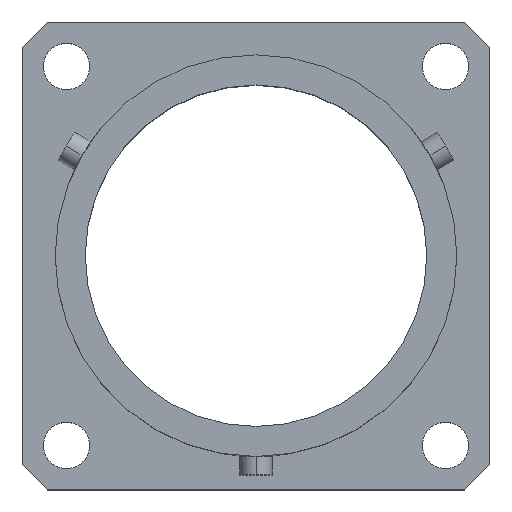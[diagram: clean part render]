
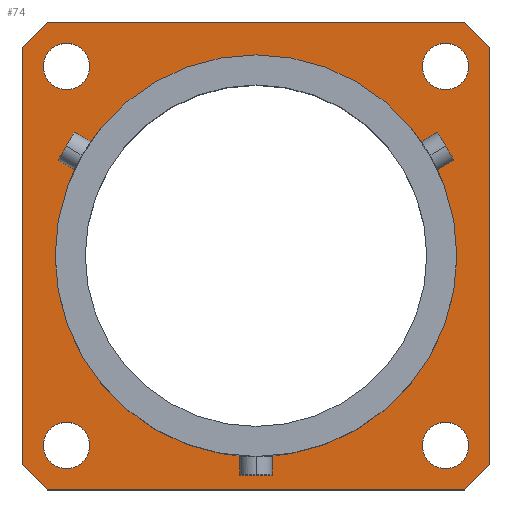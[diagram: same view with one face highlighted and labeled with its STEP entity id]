
A CAD part, top view. The second image highlights one B-rep face of the part: STEP entity #74.
In plain terms, the highlighted planar face has unit normal (0, 0, 1).
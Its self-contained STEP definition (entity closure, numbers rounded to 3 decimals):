
#74=ADVANCED_FACE('',(#144,#145,#146,#147,#148,#109),#377,.T.);
#109=FACE_OUTER_BOUND('',#163,.F.);
#144=FACE_BOUND('',#158,.F.);
#145=FACE_BOUND('',#159,.F.);
#146=FACE_BOUND('',#160,.F.);
#147=FACE_BOUND('',#161,.F.);
#148=FACE_BOUND('',#162,.F.);
#158=EDGE_LOOP('',(#207,#208));
#159=EDGE_LOOP('',(#209,#210));
#160=EDGE_LOOP('',(#211,#212));
#161=EDGE_LOOP('',(#213,#214));
#162=EDGE_LOOP('',(#215,#216));
#163=EDGE_LOOP('',(#217,#218,#219,#220,#221,#222,#223,#224));
#207=ORIENTED_EDGE('',*,*,#528,.T.);
#208=ORIENTED_EDGE('',*,*,#526,.T.);
#209=ORIENTED_EDGE('',*,*,#536,.T.);
#210=ORIENTED_EDGE('',*,*,#534,.T.);
#211=ORIENTED_EDGE('',*,*,#540,.T.);
#212=ORIENTED_EDGE('',*,*,#538,.T.);
#213=ORIENTED_EDGE('',*,*,#532,.T.);
#214=ORIENTED_EDGE('',*,*,#530,.T.);
#215=ORIENTED_EDGE('',*,*,#525,.T.);
#216=ORIENTED_EDGE('',*,*,#524,.T.);
#217=ORIENTED_EDGE('',*,*,#558,.T.);
#218=ORIENTED_EDGE('',*,*,#543,.T.);
#219=ORIENTED_EDGE('',*,*,#561,.T.);
#220=ORIENTED_EDGE('',*,*,#555,.T.);
#221=ORIENTED_EDGE('',*,*,#560,.T.);
#222=ORIENTED_EDGE('',*,*,#551,.T.);
#223=ORIENTED_EDGE('',*,*,#559,.T.);
#224=ORIENTED_EDGE('',*,*,#547,.T.);
#377=PLANE('',#699);
#393=LINE('',#1084,#438);
#397=LINE('',#1088,#442);
#401=LINE('',#1092,#446);
#405=LINE('',#1096,#450);
#408=LINE('',#1099,#453);
#409=LINE('',#1100,#454);
#410=LINE('',#1101,#455);
#411=LINE('',#1102,#456);
#438=VECTOR('',#778,2.546);
#442=VECTOR('',#782,2.546);
#446=VECTOR('',#786,2.546);
#450=VECTOR('',#790,2.546);
#453=VECTOR('',#793,29.7);
#454=VECTOR('',#794,29.7);
#455=VECTOR('',#795,29.7);
#456=VECTOR('',#796,29.7);
#484=CIRCLE('',#667,14.29);
#485=CIRCLE('',#668,14.29);
#486=CIRCLE('',#669,1.65);
#488=CIRCLE('',#671,1.65);
#490=CIRCLE('',#673,1.65);
#492=CIRCLE('',#675,1.65);
#494=CIRCLE('',#677,1.65);
#496=CIRCLE('',#679,1.65);
#498=CIRCLE('',#681,1.65);
#500=CIRCLE('',#683,1.65);
#524=EDGE_CURVE('',#654,#653,#484,.T.);
#525=EDGE_CURVE('',#653,#654,#485,.T.);
#526=EDGE_CURVE('',#652,#651,#486,.T.);
#528=EDGE_CURVE('',#651,#652,#488,.T.);
#530=EDGE_CURVE('',#648,#647,#490,.T.);
#532=EDGE_CURVE('',#647,#648,#492,.T.);
#534=EDGE_CURVE('',#644,#643,#494,.T.);
#536=EDGE_CURVE('',#643,#644,#496,.T.);
#538=EDGE_CURVE('',#640,#639,#498,.T.);
#540=EDGE_CURVE('',#639,#640,#500,.T.);
#543=EDGE_CURVE('',#634,#633,#393,.T.);
#547=EDGE_CURVE('',#630,#629,#397,.T.);
#551=EDGE_CURVE('',#626,#625,#401,.T.);
#555=EDGE_CURVE('',#622,#621,#405,.T.);
#558=EDGE_CURVE('',#629,#634,#408,.T.);
#559=EDGE_CURVE('',#625,#630,#409,.T.);
#560=EDGE_CURVE('',#621,#626,#410,.T.);
#561=EDGE_CURVE('',#633,#622,#411,.T.);
#621=VERTEX_POINT('',#937);
#622=VERTEX_POINT('',#938);
#625=VERTEX_POINT('',#941);
#626=VERTEX_POINT('',#942);
#629=VERTEX_POINT('',#945);
#630=VERTEX_POINT('',#946);
#633=VERTEX_POINT('',#949);
#634=VERTEX_POINT('',#950);
#639=VERTEX_POINT('',#955);
#640=VERTEX_POINT('',#956);
#643=VERTEX_POINT('',#959);
#644=VERTEX_POINT('',#960);
#647=VERTEX_POINT('',#963);
#648=VERTEX_POINT('',#964);
#651=VERTEX_POINT('',#967);
#652=VERTEX_POINT('',#968);
#653=VERTEX_POINT('',#969);
#654=VERTEX_POINT('',#970);
#667=AXIS2_PLACEMENT_3D('',#1065,#741,#742);
#668=AXIS2_PLACEMENT_3D('',#1066,#743,#744);
#669=AXIS2_PLACEMENT_3D('',#1067,#745,#746);
#671=AXIS2_PLACEMENT_3D('',#1069,#749,#750);
#673=AXIS2_PLACEMENT_3D('',#1071,#753,#754);
#675=AXIS2_PLACEMENT_3D('',#1073,#757,#758);
#677=AXIS2_PLACEMENT_3D('',#1075,#761,#762);
#679=AXIS2_PLACEMENT_3D('',#1077,#765,#766);
#681=AXIS2_PLACEMENT_3D('',#1079,#769,#770);
#683=AXIS2_PLACEMENT_3D('',#1081,#773,#774);
#699=AXIS2_PLACEMENT_3D('',#1142,#850,#851);
#741=DIRECTION('',(0.,0.,1.));
#742=DIRECTION('',(0.,1.,0.));
#743=DIRECTION('',(0.,0.,1.));
#744=DIRECTION('',(0.,-1.,0.));
#745=DIRECTION('',(0.,0.,1.));
#746=DIRECTION('',(0.,1.,0.));
#749=DIRECTION('',(0.,0.,1.));
#750=DIRECTION('',(0.,-1.,0.));
#753=DIRECTION('',(0.,0.,1.));
#754=DIRECTION('',(0.,1.,0.));
#757=DIRECTION('',(0.,0.,1.));
#758=DIRECTION('',(0.,-1.,0.));
#761=DIRECTION('',(0.,0.,1.));
#762=DIRECTION('',(0.,1.,0.));
#765=DIRECTION('',(0.,0.,1.));
#766=DIRECTION('',(0.,-1.,0.));
#769=DIRECTION('',(0.,0.,1.));
#770=DIRECTION('',(0.,1.,0.));
#773=DIRECTION('',(0.,0.,1.));
#774=DIRECTION('',(0.,-1.,0.));
#778=DIRECTION('',(0.707,0.707,0.));
#782=DIRECTION('',(-0.707,0.707,0.));
#786=DIRECTION('',(-0.707,-0.707,0.));
#790=DIRECTION('',(0.707,-0.707,0.));
#793=DIRECTION('',(0.,1.,0.));
#794=DIRECTION('',(-1.,0.,0.));
#795=DIRECTION('',(0.,-1.,0.));
#796=DIRECTION('',(1.,0.,0.));
#850=DIRECTION('',(0.,0.,1.));
#851=DIRECTION('',(1.,0.,0.));
#937=CARTESIAN_POINT('',(16.65,14.85,1.6));
#938=CARTESIAN_POINT('',(14.85,16.65,1.6));
#941=CARTESIAN_POINT('',(14.85,-16.65,1.6));
#942=CARTESIAN_POINT('',(16.65,-14.85,1.6));
#945=CARTESIAN_POINT('',(-16.65,-14.85,1.6));
#946=CARTESIAN_POINT('',(-14.85,-16.65,1.6));
#949=CARTESIAN_POINT('',(-14.85,16.65,1.6));
#950=CARTESIAN_POINT('',(-16.65,14.85,1.6));
#955=CARTESIAN_POINT('',(13.485,-15.135,1.6));
#956=CARTESIAN_POINT('',(13.485,-11.835,1.6));
#959=CARTESIAN_POINT('',(-13.485,-15.135,1.6));
#960=CARTESIAN_POINT('',(-13.485,-11.835,1.6));
#963=CARTESIAN_POINT('',(-13.485,11.835,1.6));
#964=CARTESIAN_POINT('',(-13.485,15.135,1.6));
#967=CARTESIAN_POINT('',(13.485,11.835,1.6));
#968=CARTESIAN_POINT('',(13.485,15.135,1.6));
#969=CARTESIAN_POINT('',(0.,-14.29,1.6));
#970=CARTESIAN_POINT('',(0.,14.29,1.6));
#1065=CARTESIAN_POINT('',(0.,0.,1.6));
#1066=CARTESIAN_POINT('',(0.,0.,1.6));
#1067=CARTESIAN_POINT('',(13.485,13.485,1.6));
#1069=CARTESIAN_POINT('',(13.485,13.485,1.6));
#1071=CARTESIAN_POINT('',(-13.485,13.485,1.6));
#1073=CARTESIAN_POINT('',(-13.485,13.485,1.6));
#1075=CARTESIAN_POINT('',(-13.485,-13.485,1.6));
#1077=CARTESIAN_POINT('',(-13.485,-13.485,1.6));
#1079=CARTESIAN_POINT('',(13.485,-13.485,1.6));
#1081=CARTESIAN_POINT('',(13.485,-13.485,1.6));
#1084=CARTESIAN_POINT('',(-16.65,14.85,1.6));
#1088=CARTESIAN_POINT('',(-14.85,-16.65,1.6));
#1092=CARTESIAN_POINT('',(16.65,-14.85,1.6));
#1096=CARTESIAN_POINT('',(14.85,16.65,1.6));
#1099=CARTESIAN_POINT('',(-16.65,-14.85,1.6));
#1100=CARTESIAN_POINT('',(14.85,-16.65,1.6));
#1101=CARTESIAN_POINT('',(16.65,14.85,1.6));
#1102=CARTESIAN_POINT('',(-14.85,16.65,1.6));
#1142=CARTESIAN_POINT('',(-16.983,-16.983,1.6));
